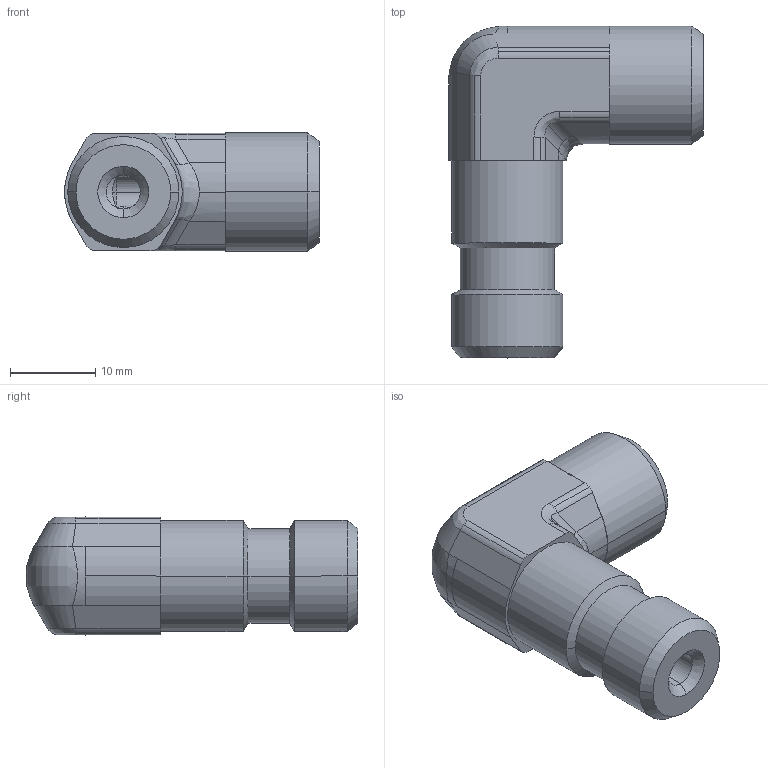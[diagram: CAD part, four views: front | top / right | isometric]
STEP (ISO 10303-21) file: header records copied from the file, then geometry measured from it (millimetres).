
FILE_DESCRIPTION((''),'2;1');
FILE_NAME('106114.stp','2007-10-31T14:50:02',(''),(''),'AutoCAD STEP 2000i','AutoCAD 2000i',', , ');
FILE_SCHEMA(('CONFIG_CONTROL_DESIGN'));
Length unit declared in the file: millimetre
Products named in the file (2): 106114.0; 3090#0
Assembly tree (1 placements, depth 2):
  106114.0
    3090#0
Bounding box: 29.9 x 38.92 x 13.85 mm (x, y, z)
Volume: 6885.3 mm3; surface area: 3304.7 mm2
Topology: 1 solids, 1 shells, 105 faces, 236 edges, 135 vertices
Faces by surface type: cylinder 48, cone 23, plane 22, bspline 12
Entity records: 3679 total; most frequent: CARTESIAN_POINT 1229, DIRECTION 526, ORIENTED_EDGE 472, EDGE_CURVE 236, AXIS2_PLACEMENT_3D 216, VERTEX_POINT 135, EDGE_LOOP 109, FACE_OUTER_BOUND 105
